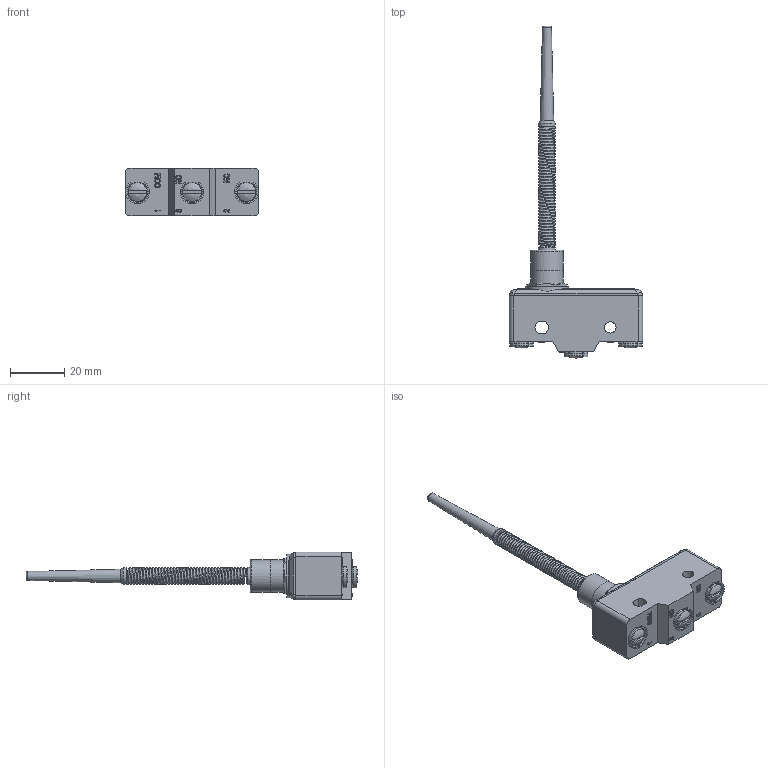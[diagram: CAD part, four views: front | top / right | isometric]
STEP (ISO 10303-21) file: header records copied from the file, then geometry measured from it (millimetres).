
FILE_DESCRIPTION((''),'2; 1');
FILE_NAME('','2026-03-27T16:28:21',(''),(''),'CST STEP Exporter V1.0','Unknown','');
FILE_SCHEMA(('CONFIG_CONTROL_DESIGN'));
Length unit declared in the file: metre
Assembly tree (15 placements, depth 2):
  (unnamed)
    (unnamed)
    (unnamed)
    (unnamed)
    (unnamed)
    (unnamed)
    (unnamed)
    (unnamed)
    (unnamed)
    (unnamed)
    (unnamed)
    (unnamed)
    (unnamed)
    (unnamed)
    (unnamed)
    (unnamed)
Bounding box: 49.4 x 122.81 x 17.7 mm (x, y, z)
Surface area: 16802.4 mm2 (no closed solid volume)
Topology: 0 solids, 15 shells, 340 faces, 1081 edges, 741 vertices
Faces by surface type: plane 223, extrusion 49, cylinder 40, cone 9, torus 8, revolution 6, bspline 5
Full cylindrical faces by diameter (mm): 4.2 x1, 4.3 x1, 6.3 x2, 6.9 x3, 12 x2, 16 x1
Entity records: 28090 total; most frequent: CARTESIAN_POINT 16158, ORIENTED_EDGE 1806, DIRECTION 1639, EDGE_CURVE 1060, VECTOR 792, LINE 743, VERTEX_POINT 735, AXIS2_PLACEMENT_3D 422
